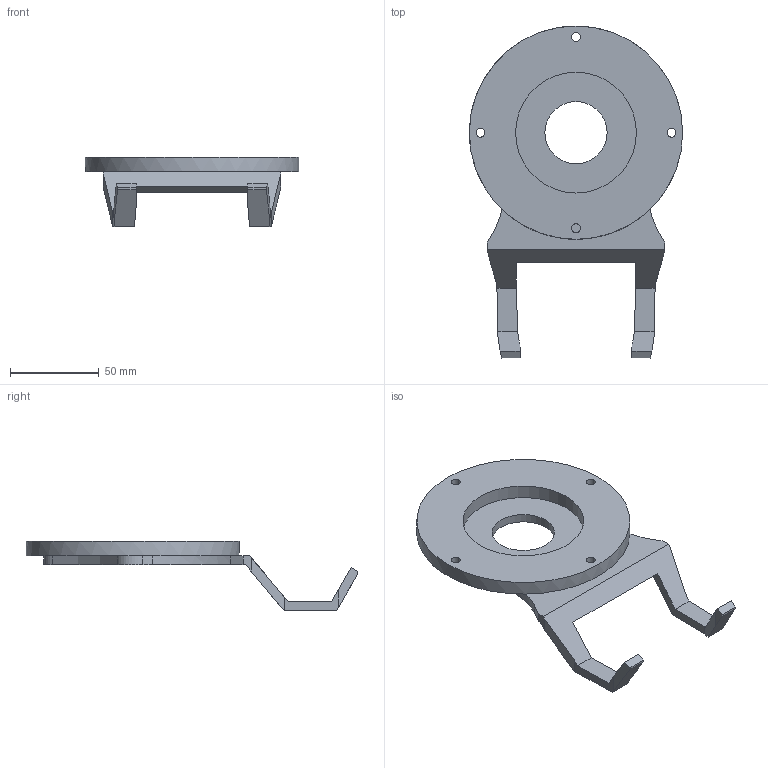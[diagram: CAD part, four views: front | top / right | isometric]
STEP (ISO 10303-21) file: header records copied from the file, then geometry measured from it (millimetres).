
FILE_DESCRIPTION( ( 'STEP AP214' ), '1' );
FILE_NAME( 'C:/Users/KOSH/Desktop/New folder/2021/Actiforce/Export/9309839.stp', '2021-12-03T09:49:05', ( '' ), ( '' ), ' ', 'PARTsolutions', ' ' );
FILE_SCHEMA( ( 'AUTOMOTIVE_DESIGN { 1 0 10303 214 1 1 1 1 }' ) );
Length unit declared in the file: millimetre
Products named in the file (1): _9309839
Bounding box: 120 x 186.76 x 38.84 mm (x, y, z)
Volume: 111137.2 mm3; surface area: 37275 mm2
Topology: 1 solids, 1 shells, 59 faces, 168 edges, 113 vertices
Faces by surface type: plane 43, cylinder 16
Full cylindrical faces by diameter (mm): 5 x4, 35 x1, 68 x1, 120 x1
Entity records: 2336 total; most frequent: CARTESIAN_POINT 322, DIRECTION 310, ORIENTED_EDGE 310, EDGE_CURVE 155, LINE 120, VECTOR 120, VERTEX_POINT 107, AXIS2_PLACEMENT_3D 95
